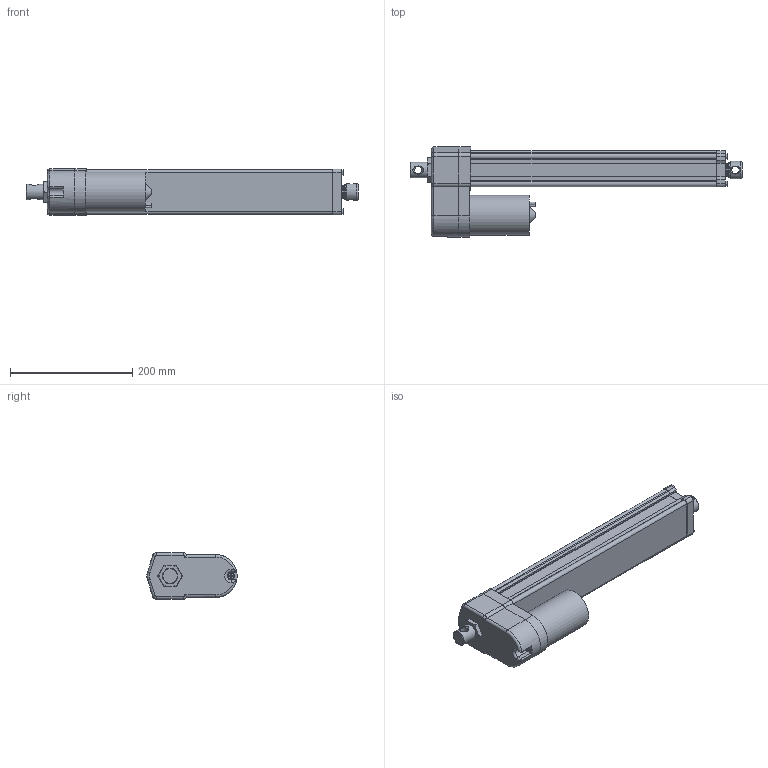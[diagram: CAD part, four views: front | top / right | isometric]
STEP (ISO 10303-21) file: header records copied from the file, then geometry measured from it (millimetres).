
FILE_DESCRIPTION( ( 'STEP AP203' ), '1' );
FILE_NAME( 'p:/temp/worker_283/temp/exporttempdir_4564_590_1bQY0/format_0/DA12-21B65M30M0N-AMM.stp', '2020-04-12T13:22:54', ( 'License CC BY-ND 4.0' ), ( 'CADENAS' ), ' ', 'PARTsolutions', ' ' );
FILE_SCHEMA( ( 'CONFIG_CONTROL_DESIGN' ) );
Length unit declared in the file: millimetre
Products named in the file (8): DA12-21B65M30M0N-AMM; _ELECTRAK-LA14-DA12-21B65MM0N-30M-EU-REAR; _Electrak-10-EU-RA-D602700; _D602768eu; _ELECTRAK-LA14-DA12--MOTOR; _DA12-21B65M30M0NAMMtube; _ELECTRAK-LA14-DA12--30-PLATE; _ELECTRAK-LA14-DA12--3021B65MNM-ROD
Assembly tree (7 placements, depth 2):
  DA12-21B65M30M0N-AMM
    _ELECTRAK-LA14-DA12-21B65MM0N-30M-EU-REAR
    _Electrak-10-EU-RA-D602700
    _D602768eu
    _ELECTRAK-LA14-DA12--MOTOR
    _DA12-21B65M30M0NAMMtube
    _ELECTRAK-LA14-DA12--30-PLATE
    _ELECTRAK-LA14-DA12--3021B65MNM-ROD
Bounding box: 543.95 x 148 x 76.2 mm (x, y, z)
Volume: 1686159.2 mm3; surface area: 418281.3 mm2
Topology: 7 solids, 8 shells, 378 faces, 942 edges, 610 vertices
Faces by surface type: plane 183, cylinder 131, cone 46, torus 14, bspline 4
Full cylindrical faces by diameter (mm): 4 x2, 4.126 x1, 4.8 x6, 5 x5, 5.6 x4, 7.878 x4, 9.398 x1, 12.2 x2, 16 x1, 21.8 x1, 25.2 x1, 25.4 x1, 26.24 x1, 28.5 x1, 28.6 x2, 47.625 x1, 65.3 x1
Entity records: 11834 total; most frequent: CARTESIAN_POINT 2729, DIRECTION 1869, ORIENTED_EDGE 1744, EDGE_CURVE 872, AXIS2_PLACEMENT_3D 702, VERTEX_POINT 602, EDGE_LOOP 485, LINE 465
